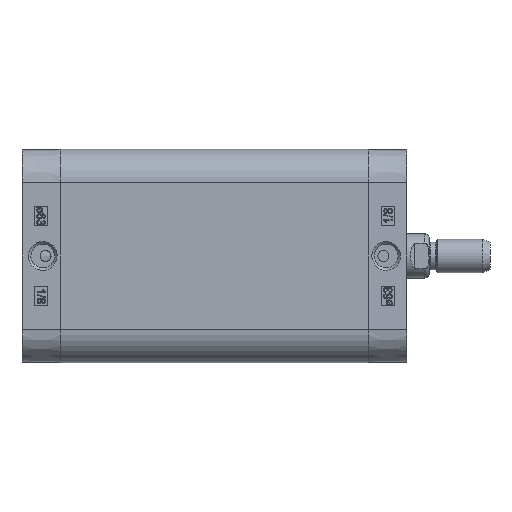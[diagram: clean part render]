
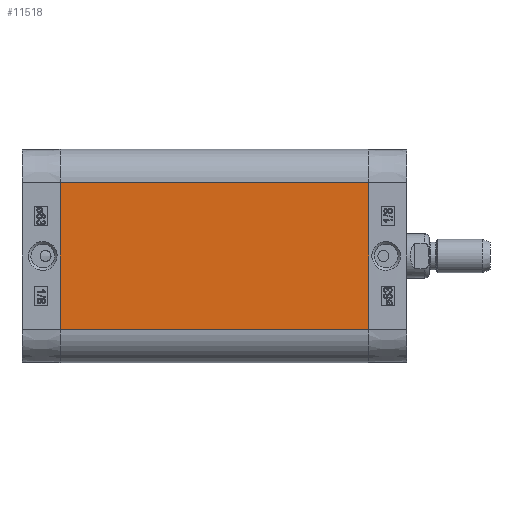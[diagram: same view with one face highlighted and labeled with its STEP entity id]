
A CAD part, left-side view. The second image highlights one B-rep face of the part: STEP entity #11518.
In plain terms, the highlighted planar face has unit normal (-1, 0, 0).
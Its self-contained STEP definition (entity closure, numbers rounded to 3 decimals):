
#5848=CARTESIAN_POINT('',(-38.5,-111.5,26.5));
#5849=VERTEX_POINT('',#5848);
#5856=CARTESIAN_POINT('',(-38.5,-111.5,-26.5));
#5857=VERTEX_POINT('',#5856);
#5858=CARTESIAN_POINT('',(-38.5,-111.5,-26.5));
#5859=DIRECTION('',(0.0,0.0,1.0));
#5860=VECTOR('',#5859,53.0);
#5861=LINE('',#5858,#5860);
#5862=EDGE_CURVE('',#5857,#5849,#5861,.T.);
#11476=CARTESIAN_POINT('',(-38.5,0.0,-26.5));
#11477=VERTEX_POINT('',#11476);
#11478=CARTESIAN_POINT('',(-38.5,0.0,-26.5));
#11479=DIRECTION('',(0.0,-1.0,0.0));
#11480=VECTOR('',#11479,111.5);
#11481=LINE('',#11478,#11480);
#11482=EDGE_CURVE('',#11477,#5857,#11481,.T.);
#11495=CARTESIAN_POINT('',(-38.5,0.0,-26.5));
#11496=DIRECTION('',(-1.0,0.0,0.0));
#11497=DIRECTION('',(0.0,0.0,1.0));
#11498=AXIS2_PLACEMENT_3D('',#11495,#11496,#11497);
#11499=PLANE('',#11498);
#11500=ORIENTED_EDGE('',*,*,#5862,.T.);
#11501=CARTESIAN_POINT('',(-38.5,0.0,26.5));
#11502=VERTEX_POINT('',#11501);
#11503=CARTESIAN_POINT('',(-38.5,0.0,26.5));
#11504=DIRECTION('',(0.0,-1.0,0.0));
#11505=VECTOR('',#11504,111.5);
#11506=LINE('',#11503,#11505);
#11507=EDGE_CURVE('',#11502,#5849,#11506,.T.);
#11508=ORIENTED_EDGE('',*,*,#11507,.F.);
#11509=CARTESIAN_POINT('',(-38.5,0.0,-26.5));
#11510=DIRECTION('',(0.0,0.0,1.0));
#11511=VECTOR('',#11510,53.0);
#11512=LINE('',#11509,#11511);
#11513=EDGE_CURVE('',#11477,#11502,#11512,.T.);
#11514=ORIENTED_EDGE('',*,*,#11513,.F.);
#11515=ORIENTED_EDGE('',*,*,#11482,.T.);
#11516=EDGE_LOOP('',(#11500,#11508,#11514,#11515));
#11517=FACE_OUTER_BOUND('',#11516,.T.);
#11518=ADVANCED_FACE('',(#11517),#11499,.T.);
